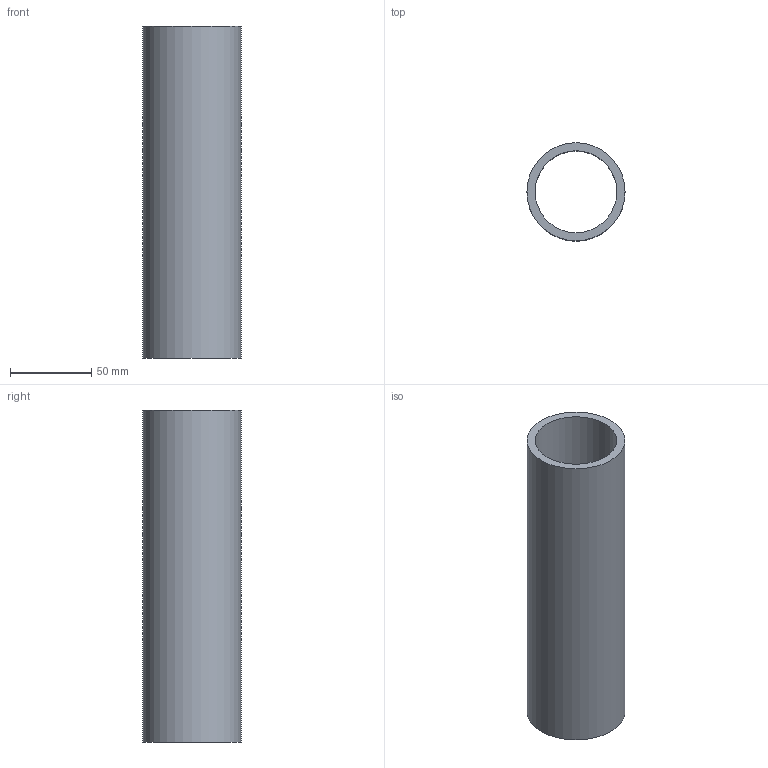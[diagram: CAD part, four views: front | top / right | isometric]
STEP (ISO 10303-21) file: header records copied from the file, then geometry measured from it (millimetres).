
FILE_DESCRIPTION(('Open CASCADE Model'),'2;1');
FILE_NAME('Open CASCADE Shape Model','2026-10-19T10:09:20',('Author'),( 'Open CASCADE'),'Open CASCADE STEP processor 8.0','Open CASCADE 8.0' ,'Unknown');
FILE_SCHEMA(('AUTOMOTIVE_DESIGN { 1 0 10303 214 1 1 1 1 }'));
Length unit declared in the file: millimetre
Products named in the file (1): CORTE_MASTIL_60p3x5_P05 64
Bounding box: 60.3 x 60.3 x 204 mm (x, y, z)
Volume: 177204.7 mm3; surface area: 72619.2 mm2
Topology: 1 solids, 1 shells, 4 faces, 6 edges, 4 vertices
Faces by surface type: cylinder 2, plane 2
Full cylindrical faces by diameter (mm): 50.3 x1, 60.3 x1
Entity records: 198 total; most frequent: CARTESIAN_POINT 51, DIRECTION 28, ORIENTED_EDGE 12, PCURVE 12, DEFINITIONAL_REPRESENTATION 12, LINE 10, VECTOR 10, AXIS2_PLACEMENT_3D 9
